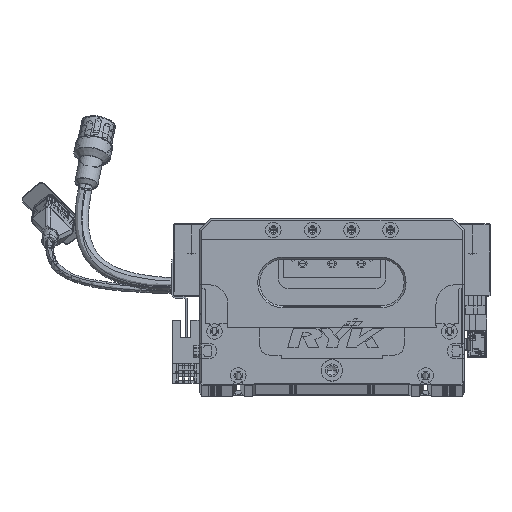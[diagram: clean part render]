
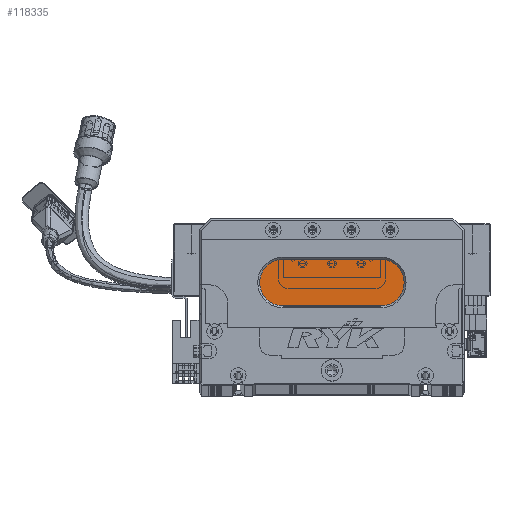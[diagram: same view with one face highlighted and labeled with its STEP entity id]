
A CAD part, top view. The second image highlights one B-rep face of the part: STEP entity #118335.
In plain terms, the highlighted planar face has unit normal (0, 0, 1) as drawn and (0, 0, -1) by its records, which use the part's own axes.
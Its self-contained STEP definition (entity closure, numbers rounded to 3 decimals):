
#2181 = CARTESIAN_POINT ( 'NONE',  ( 93., 52., 13. ) ) ;
#2681 = DIRECTION ( 'NONE',  ( 0., 0., -1. ) ) ;
#3182 = DIRECTION ( 'NONE',  ( -1., 0., 0. ) ) ;
#4552 = ORIENTED_EDGE ( 'NONE', *, *, #33030, .T. ) ;
#6690 = ORIENTED_EDGE ( 'NONE', *, *, #52582, .T. ) ;
#11318 = CARTESIAN_POINT ( 'NONE',  ( 93., 64., 13. ) ) ;
#12002 = DIRECTION ( 'NONE',  ( -1., 0., 0. ) ) ;
#16184 = VERTEX_POINT ( 'NONE', #47662 ) ;
#19752 = AXIS2_PLACEMENT_3D ( 'NONE', #38113, #120697, #28545 ) ;
#20775 = ORIENTED_EDGE ( 'NONE', *, *, #137265, .T. ) ;
#23909 = CIRCLE ( 'NONE', #123152, 12. ) ;
#25934 = DIRECTION ( 'NONE',  ( 0., 0., -1. ) ) ;
#26350 = LINE ( 'NONE', #47711, #35468 ) ;
#28545 = DIRECTION ( 'NONE',  ( -1., 0., 0. ) ) ;
#32354 = EDGE_LOOP ( 'NONE', ( #4552, #20775, #111310, #6690, #96726 ) ) ;
#33030 = EDGE_CURVE ( 'NONE', #107812, #101667, #23909, .T. ) ;
#35468 = VECTOR ( 'NONE', #12002, 1000. ) ;
#38113 = CARTESIAN_POINT ( 'NONE',  ( 43., 52., 13. ) ) ;
#43965 = EDGE_CURVE ( 'NONE', #100347, #107812, #82297, .T. ) ;
#45742 = CARTESIAN_POINT ( 'NONE',  ( 43., 64., 13. ) ) ;
#47469 = CIRCLE ( 'NONE', #19752, 12. ) ;
#47662 = CARTESIAN_POINT ( 'NONE',  ( 43., 40., 13. ) ) ;
#47711 = CARTESIAN_POINT ( 'NONE',  ( 93., 40., 13. ) ) ;
#48905 = VERTEX_POINT ( 'NONE', #60890 ) ;
#52582 = EDGE_CURVE ( 'NONE', #48905, #100347, #109150, .T. ) ;
#55442 = EDGE_CURVE ( 'NONE', #16184, #48905, #47469, .T. ) ;
#58086 = AXIS2_PLACEMENT_3D ( 'NONE', #95860, #25934, #3182 ) ;
#58851 = VECTOR ( 'NONE', #114590, 1000. ) ;
#60890 = CARTESIAN_POINT ( 'NONE',  ( 31., 52., 13. ) ) ;
#66302 = DIRECTION ( 'NONE',  ( 0., 0., -1. ) ) ;
#76550 = CARTESIAN_POINT ( 'NONE',  ( 93., 40., 13. ) ) ;
#82297 = LINE ( 'NONE', #11318, #58851 ) ;
#95860 = CARTESIAN_POINT ( 'NONE',  ( 43., 52., 13. ) ) ;
#96726 = ORIENTED_EDGE ( 'NONE', *, *, #43965, .T. ) ;
#100347 = VERTEX_POINT ( 'NONE', #45742 ) ;
#101568 = CARTESIAN_POINT ( 'NONE',  ( 93., 52., 13. ) ) ;
#101667 = VERTEX_POINT ( 'NONE', #76550 ) ;
#107812 = VERTEX_POINT ( 'NONE', #117948 ) ;
#109150 = CIRCLE ( 'NONE', #58086, 12. ) ;
#111310 = ORIENTED_EDGE ( 'NONE', *, *, #55442, .T. ) ;
#113172 = DIRECTION ( 'NONE',  ( -1., 0., 0. ) ) ;
#114590 = DIRECTION ( 'NONE',  ( 1., 0., 0. ) ) ;
#117948 = CARTESIAN_POINT ( 'NONE',  ( 93., 64., 13. ) ) ;
#118335 = ADVANCED_FACE ( 'NONE', ( #142775 ), #125803, .T. ) ;
#120697 = DIRECTION ( 'NONE',  ( 0., 0., -1. ) ) ;
#123152 = AXIS2_PLACEMENT_3D ( 'NONE', #2181, #2681, #128746 ) ;
#125803 = PLANE ( 'NONE',  #130908 ) ;
#128746 = DIRECTION ( 'NONE',  ( -1., 0., 0. ) ) ;
#130908 = AXIS2_PLACEMENT_3D ( 'NONE', #101568, #66302, #113172 ) ;
#137265 = EDGE_CURVE ( 'NONE', #101667, #16184, #26350, .T. ) ;
#142775 = FACE_OUTER_BOUND ( 'NONE', #32354, .T. ) ;
